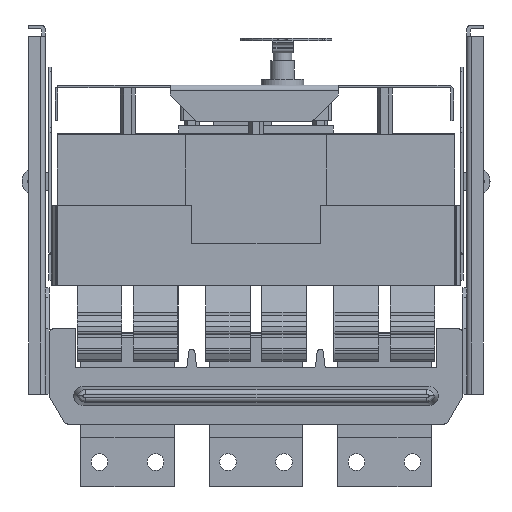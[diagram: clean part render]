
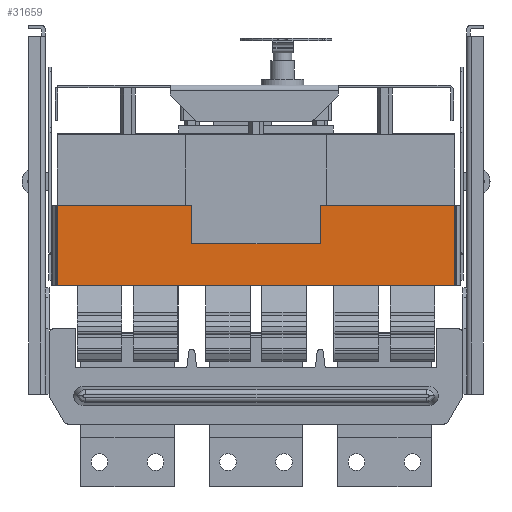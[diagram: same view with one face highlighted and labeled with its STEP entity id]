
A CAD part, front view. The second image highlights one B-rep face of the part: STEP entity #31659.
In plain terms, the highlighted planar face has unit normal (0, -1, 0).
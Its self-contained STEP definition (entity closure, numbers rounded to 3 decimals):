
#656 = ORIENTED_EDGE ( 'NONE', *, *, #21160, .T. ) ;
#776 = DIRECTION ( 'NONE',  ( 0., 0., -1. ) ) ;
#1037 = CARTESIAN_POINT ( 'NONE',  ( 425., 0., 0. ) ) ;
#1931 = ORIENTED_EDGE ( 'NONE', *, *, #4881, .T. ) ;
#3213 = ORIENTED_EDGE ( 'NONE', *, *, #40757, .F. ) ;
#3899 = VERTEX_POINT ( 'NONE', #17658 ) ;
#4726 = DIRECTION ( 'NONE',  ( -1., 0., 0. ) ) ;
#4881 = EDGE_CURVE ( 'NONE', #39475, #21896, #37437, .T. ) ;
#5130 = VECTOR ( 'NONE', #28348, 1000. ) ;
#6137 = LINE ( 'NONE', #25085, #5130 ) ;
#6334 = DIRECTION ( 'NONE',  ( 0., 0., -1. ) ) ;
#6382 = EDGE_CURVE ( 'NONE', #15871, #3899, #33679, .T. ) ;
#6495 = LINE ( 'NONE', #36796, #31610 ) ;
#8370 = EDGE_CURVE ( 'NONE', #25552, #38719, #22195, .T. ) ;
#9098 = ORIENTED_EDGE ( 'NONE', *, *, #8370, .T. ) ;
#9366 = CARTESIAN_POINT ( 'NONE',  ( 425., 0., 86. ) ) ;
#9851 = FACE_OUTER_BOUND ( 'NONE', #13811, .T. ) ;
#10019 = CARTESIAN_POINT ( 'NONE',  ( 281.3, 0., 45. ) ) ;
#10719 = VECTOR ( 'NONE', #15683, 1000. ) ;
#11159 = CARTESIAN_POINT ( 'NONE',  ( 425., 0., 86. ) ) ;
#11277 = VECTOR ( 'NONE', #17179, 1000. ) ;
#12655 = ORIENTED_EDGE ( 'NONE', *, *, #38759, .F. ) ;
#13133 = LINE ( 'NONE', #29949, #20836 ) ;
#13484 = VECTOR ( 'NONE', #4726, 1000. ) ;
#13811 = EDGE_LOOP ( 'NONE', ( #40994, #656, #9098, #38720, #1931, #12655, #19099, #3213 ) ) ;
#13876 = CARTESIAN_POINT ( 'NONE',  ( 0., 0., 0. ) ) ;
#13878 = DIRECTION ( 'NONE',  ( 1., 0., 0. ) ) ;
#14597 = DIRECTION ( 'NONE',  ( 0., 0., 1. ) ) ;
#15429 = VECTOR ( 'NONE', #6334, 1000. ) ;
#15683 = DIRECTION ( 'NONE',  ( 0., 0., 1. ) ) ;
#15871 = VERTEX_POINT ( 'NONE', #26206 ) ;
#16095 = EDGE_CURVE ( 'NONE', #20370, #40984, #6495, .T. ) ;
#17179 = DIRECTION ( 'NONE',  ( 1., 0., 0. ) ) ;
#17658 = CARTESIAN_POINT ( 'NONE',  ( 281.3, 0., 86. ) ) ;
#19099 = ORIENTED_EDGE ( 'NONE', *, *, #6382, .T. ) ;
#20094 = CARTESIAN_POINT ( 'NONE',  ( 0., 0., 86. ) ) ;
#20370 = VERTEX_POINT ( 'NONE', #24224 ) ;
#20836 = VECTOR ( 'NONE', #776, 1000. ) ;
#21160 = EDGE_CURVE ( 'NONE', #20370, #25552, #36887, .T. ) ;
#21896 = VERTEX_POINT ( 'NONE', #1037 ) ;
#22195 = LINE ( 'NONE', #11159, #13484 ) ;
#22680 = EDGE_CURVE ( 'NONE', #38719, #39475, #23094, .T. ) ;
#23094 = LINE ( 'NONE', #25963, #15429 ) ;
#24224 = CARTESIAN_POINT ( 'NONE',  ( 143.7, 0., 45. ) ) ;
#24753 = CARTESIAN_POINT ( 'NONE',  ( 0., 0., 0. ) ) ;
#25085 = CARTESIAN_POINT ( 'NONE',  ( 281.3, 0., 45. ) ) ;
#25552 = VERTEX_POINT ( 'NONE', #33929 ) ;
#25709 = DIRECTION ( 'NONE',  ( -1., 0., 0. ) ) ;
#25963 = CARTESIAN_POINT ( 'NONE',  ( 0., 0., 315. ) ) ;
#26206 = CARTESIAN_POINT ( 'NONE',  ( 425., 0., 86. ) ) ;
#28348 = DIRECTION ( 'NONE',  ( 0., 0., 1. ) ) ;
#28699 = CARTESIAN_POINT ( 'NONE',  ( 143.7, 0., 45. ) ) ;
#29949 = CARTESIAN_POINT ( 'NONE',  ( 425., 0., 315. ) ) ;
#31610 = VECTOR ( 'NONE', #13878, 1000. ) ;
#31659 = ADVANCED_FACE ( 'NONE', ( #9851 ), #40723, .F. ) ;
#32630 = VECTOR ( 'NONE', #25709, 1000. ) ;
#32640 = AXIS2_PLACEMENT_3D ( 'NONE', #37404, #34219, #14597 ) ;
#33679 = LINE ( 'NONE', #9366, #32630 ) ;
#33929 = CARTESIAN_POINT ( 'NONE',  ( 143.7, 0., 86. ) ) ;
#34219 = DIRECTION ( 'NONE',  ( 0., 1., 0. ) ) ;
#36796 = CARTESIAN_POINT ( 'NONE',  ( 143.7, 0., 45. ) ) ;
#36887 = LINE ( 'NONE', #28699, #10719 ) ;
#37404 = CARTESIAN_POINT ( 'NONE',  ( 0., 0., 315. ) ) ;
#37437 = LINE ( 'NONE', #13876, #11277 ) ;
#38719 = VERTEX_POINT ( 'NONE', #20094 ) ;
#38720 = ORIENTED_EDGE ( 'NONE', *, *, #22680, .T. ) ;
#38759 = EDGE_CURVE ( 'NONE', #15871, #21896, #13133, .T. ) ;
#39475 = VERTEX_POINT ( 'NONE', #24753 ) ;
#40723 = PLANE ( 'NONE',  #32640 ) ;
#40757 = EDGE_CURVE ( 'NONE', #40984, #3899, #6137, .T. ) ;
#40984 = VERTEX_POINT ( 'NONE', #10019 ) ;
#40994 = ORIENTED_EDGE ( 'NONE', *, *, #16095, .F. ) ;
